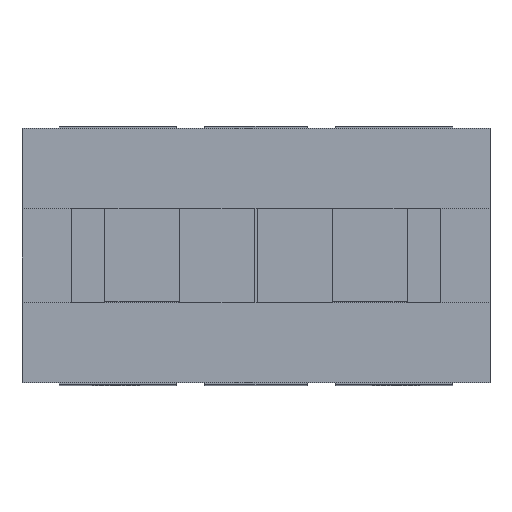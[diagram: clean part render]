
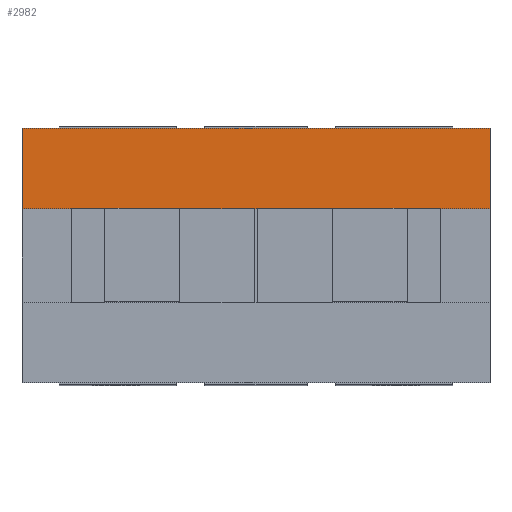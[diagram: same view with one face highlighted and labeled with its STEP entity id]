
A CAD part, top view. The second image highlights one B-rep face of the part: STEP entity #2982.
In plain terms, the highlighted planar face has unit normal (0, 0, 1).
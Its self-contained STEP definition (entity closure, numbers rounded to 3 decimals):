
#63 = CARTESIAN_POINT ( 'NONE',  ( -25., 9.3, 62.3 ) ) ;
#230 = VERTEX_POINT ( 'NONE', #378 ) ;
#378 = CARTESIAN_POINT ( 'NONE',  ( 25., 13.6, 62.3 ) ) ;
#640 = VERTEX_POINT ( 'NONE', #1877 ) ;
#917 = VECTOR ( 'NONE', #1584, 1000. ) ;
#1386 = EDGE_CURVE ( 'NONE', #640, #230, #3678, .T. ) ;
#1584 = DIRECTION ( 'NONE',  ( 0., -1., 0. ) ) ;
#1750 = CARTESIAN_POINT ( 'NONE',  ( 25., 5., 62.3 ) ) ;
#1778 = DIRECTION ( 'NONE',  ( 0., 1., 0. ) ) ;
#1877 = CARTESIAN_POINT ( 'NONE',  ( -25., 13.6, 62.3 ) ) ;
#2003 = EDGE_CURVE ( 'NONE', #640, #6201, #3913, .T. ) ;
#2126 = CARTESIAN_POINT ( 'NONE',  ( -25., 5., 62.3 ) ) ;
#2973 = DIRECTION ( 'NONE',  ( 1., 0., 0. ) ) ;
#2982 = ADVANCED_FACE ( 'NONE', ( #5130 ), #5476, .T. ) ;
#3039 = CARTESIAN_POINT ( 'NONE',  ( 25., 13.6, 62.3 ) ) ;
#3076 = AXIS2_PLACEMENT_3D ( 'NONE', #1750, #4964, #1778 ) ;
#3246 = VERTEX_POINT ( 'NONE', #5572 ) ;
#3678 = LINE ( 'NONE', #3039, #4011 ) ;
#3682 = CARTESIAN_POINT ( 'NONE',  ( 25., 5., 62.3 ) ) ;
#3709 = DIRECTION ( 'NONE',  ( 0., -1., 0. ) ) ;
#3735 = LINE ( 'NONE', #3682, #6589 ) ;
#3751 = ORIENTED_EDGE ( 'NONE', *, *, #2003, .T. ) ;
#3913 = LINE ( 'NONE', #63, #917 ) ;
#3916 = ORIENTED_EDGE ( 'NONE', *, *, #1386, .F. ) ;
#4011 = VECTOR ( 'NONE', #2973, 1000. ) ;
#4054 = VECTOR ( 'NONE', #3709, 1000. ) ;
#4194 = EDGE_CURVE ( 'NONE', #230, #3246, #5488, .T. ) ;
#4964 = DIRECTION ( 'NONE',  ( 0., 0., 1. ) ) ;
#5130 = FACE_OUTER_BOUND ( 'NONE', #5773, .T. ) ;
#5347 = ORIENTED_EDGE ( 'NONE', *, *, #4194, .F. ) ;
#5476 = PLANE ( 'NONE',  #3076 ) ;
#5488 = LINE ( 'NONE', #6377, #4054 ) ;
#5572 = CARTESIAN_POINT ( 'NONE',  ( 25., 5., 62.3 ) ) ;
#5773 = EDGE_LOOP ( 'NONE', ( #5347, #3916, #3751, #6437 ) ) ;
#6165 = EDGE_CURVE ( 'NONE', #6201, #3246, #3735, .T. ) ;
#6201 = VERTEX_POINT ( 'NONE', #2126 ) ;
#6377 = CARTESIAN_POINT ( 'NONE',  ( 25., -13.6, 62.3 ) ) ;
#6437 = ORIENTED_EDGE ( 'NONE', *, *, #6165, .T. ) ;
#6589 = VECTOR ( 'NONE', #6873, 1000. ) ;
#6873 = DIRECTION ( 'NONE',  ( 1., 0., 0. ) ) ;
